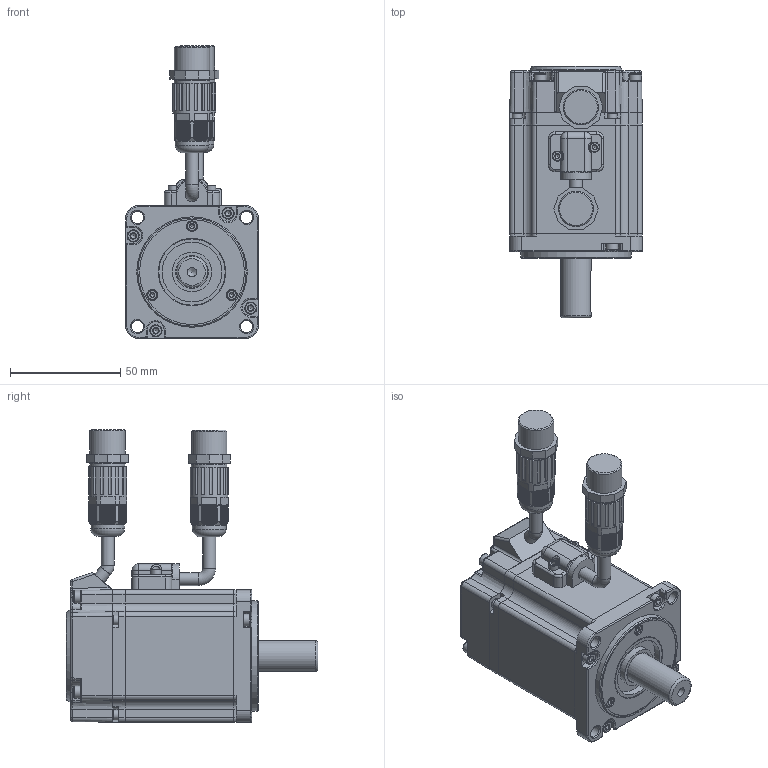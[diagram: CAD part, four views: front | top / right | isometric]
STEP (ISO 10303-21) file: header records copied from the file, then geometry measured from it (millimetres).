
FILE_DESCRIPTION(/* description */ (''),/* implementation_level */ '2;1');
FILE_NAME(/* name */ '60SY-M00630LCMS1.stp',/* time_stamp */ '2024-01-04T11:00:44+08:00',/* author */ (''),/* organization */ (''),/* preprocessor_version */ 'ST-DEVELOPER v18.1',/* originating_system */ 'SIEMENS PLM Software NX 2000',/* authorisation */ '');
FILE_SCHEMA (('AUTOMOTIVE_DESIGN { 1 0 10303 214 3 1 1 1 }'));
Products named in the file (1): 60SY-M00630S1
Bounding box: 60 x 114 x 132.49 mm (x, y, z)
Volume: 299907.9 mm3; surface area: 70805 mm2
Topology: 29 solids, 34 shells, 2150 faces, 5422 edges, 3365 vertices
Faces by surface type: plane 1433, cylinder 291, cone 157, sphere 144, torus 81, bspline 44
Full cylindrical faces by diameter (mm): 2.05 x3, 2.38 x9, 2.5 x6, 2.6 x4, 2.874 x8, 2.9 x3, 3.4 x4, 3.479 x4, 3.5 x4, 4.2 x1, 4.5 x9, 5 x3, 5.5 x12, 5.8 x5, 6 x1, 13 x2, 14 x1, 14.8 x1, 15 x1, 15.3 x2, 15.6 x2, 16 x2, 16.1 x2, 17.3 x2, 18 x1, 22.5 x1, 27 x1, 30 x2, 47.5 x2, 50 x1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
Entity records: 64099 total; most frequent: CARTESIAN_POINT 15830, ORIENTED_EDGE 10306, DIRECTION 9019, EDGE_CURVE 5153, VERTEX_POINT 3316, AXIS2_PLACEMENT_3D 3167, LINE 2685, VECTOR 2685
